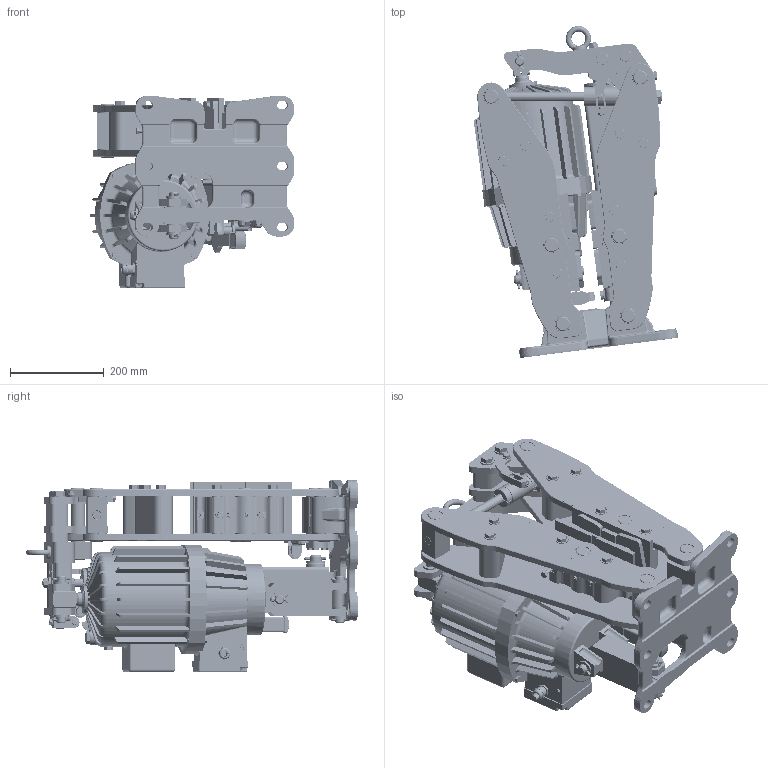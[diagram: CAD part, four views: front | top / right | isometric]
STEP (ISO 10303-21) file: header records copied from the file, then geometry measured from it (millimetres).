
FILE_DESCRIPTION((''),'2;1');
FILE_NAME('DX_230_FEA_BASE_1','2025-03-03T13:35:56',('FRMA'),(''),'CREO PARAMETRIC BY PTC INC, 2022364','CREO PARAMETRIC BY PTC INC, 2022364','');
FILE_SCHEMA(('CONFIG_CONTROL_DESIGN','SHAPE_APPEARANCE_LAYERS_GROUPS'));
Products named in the file (1): DX_230_FEA_BASE_1
Bounding box: 435.3 x 707.28 x 410 mm (x, y, z)
Volume: 16472182.8 mm3; surface area: 3460849.4 mm2
Topology: 1 solids, 244 shells, 10381 faces, 28047 edges, 18321 vertices
Faces by surface type: plane 5141, cylinder 2877, cone 1352, torus 722, bspline 193, extrusion 60, sphere 36
Entity records: 534154 total; most frequent: CARTESIAN_POINT 102656, ORIENTED_EDGE 55249, DIRECTION 53714, PRESENTATION_STYLE_ASSIGNMENT 38064, STYLED_ITEM 28109, CURVE_STYLE 27981, EDGE_CURVE 27921, AXIS2_PLACEMENT_3D 19885
